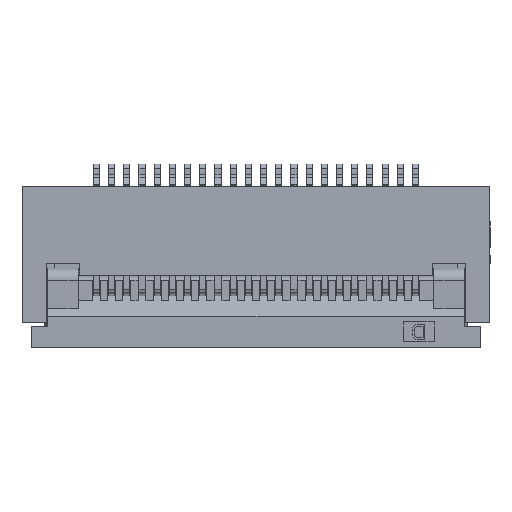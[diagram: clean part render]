
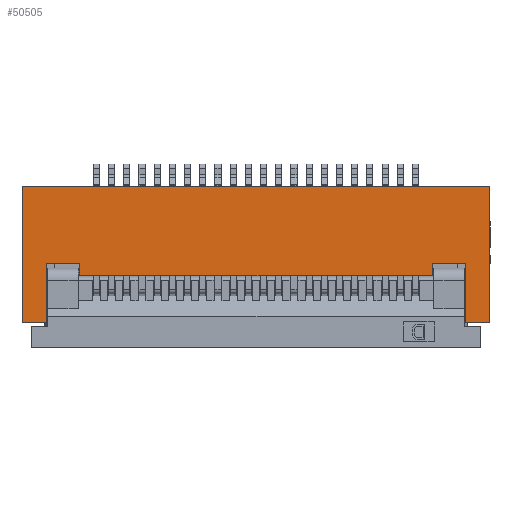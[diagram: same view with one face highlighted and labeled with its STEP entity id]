
A CAD part, top view. The second image highlights one B-rep face of the part: STEP entity #50505.
In plain terms, the highlighted planar face has unit normal (0, 0, 1).
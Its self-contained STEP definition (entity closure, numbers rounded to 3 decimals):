
#1907 = EDGE_CURVE ( 'NONE', #40759, #85933, #59742, .T. ) ;
#2550 = ORIENTED_EDGE ( 'NONE', *, *, #75222, .T. ) ;
#3013 = VERTEX_POINT ( 'NONE', #68509 ) ;
#3036 = DIRECTION ( 'NONE',  ( -1., 0., 0. ) ) ;
#7450 = VERTEX_POINT ( 'NONE', #47236 ) ;
#7675 = CARTESIAN_POINT ( 'NONE',  ( 7.75, 2.681, 2. ) ) ;
#8118 = CARTESIAN_POINT ( 'NONE',  ( -6.9, -0.844, 2. ) ) ;
#8336 = VERTEX_POINT ( 'NONE', #31767 ) ;
#8471 = CARTESIAN_POINT ( 'NONE',  ( 7.3, -1.819, 2. ) ) ;
#8561 = EDGE_CURVE ( 'NONE', #99518, #3013, #19901, .T. ) ;
#8850 = DIRECTION ( 'NONE',  ( -1., 0., 0. ) ) ;
#8954 = LINE ( 'NONE', #68949, #79831 ) ;
#10359 = EDGE_CURVE ( 'NONE', #66050, #8336, #61046, .T. ) ;
#12968 = CARTESIAN_POINT ( 'NONE',  ( -7.7, 2.681, 2. ) ) ;
#15046 = EDGE_CURVE ( 'NONE', #85933, #81026, #57207, .T. ) ;
#15263 = EDGE_CURVE ( 'NONE', #16054, #61221, #70411, .T. ) ;
#15470 = DIRECTION ( 'NONE',  ( 1., 0., 0. ) ) ;
#16054 = VERTEX_POINT ( 'NONE', #29834 ) ;
#17273 = VECTOR ( 'NONE', #29956, 1000. ) ;
#19901 = LINE ( 'NONE', #71532, #93829 ) ;
#21018 = DIRECTION ( 'NONE',  ( 1., 0., 0. ) ) ;
#23286 = VECTOR ( 'NONE', #105702, 1000. ) ;
#23461 = EDGE_CURVE ( 'NONE', #66050, #76341, #44665, .T. ) ;
#25655 = ORIENTED_EDGE ( 'NONE', *, *, #15046, .T. ) ;
#26765 = CARTESIAN_POINT ( 'NONE',  ( -6.9, -1.819, 2. ) ) ;
#27251 = CARTESIAN_POINT ( 'NONE',  ( -7.3, -1.819, 2. ) ) ;
#29373 = CARTESIAN_POINT ( 'NONE',  ( -6.9, 0.131, 2. ) ) ;
#29834 = CARTESIAN_POINT ( 'NONE',  ( 6.9, 0.131, 2. ) ) ;
#29956 = DIRECTION ( 'NONE',  ( 0., -1., 0. ) ) ;
#31767 = CARTESIAN_POINT ( 'NONE',  ( -7.7, -1.819, 2. ) ) ;
#36967 = CARTESIAN_POINT ( 'NONE',  ( -7.7, 0.431, 2. ) ) ;
#37608 = EDGE_CURVE ( 'NONE', #40759, #61221, #42436, .T. ) ;
#40035 = DIRECTION ( 'NONE',  ( -1., 0., 0. ) ) ;
#40639 = ORIENTED_EDGE ( 'NONE', *, *, #108759, .T. ) ;
#40759 = VERTEX_POINT ( 'NONE', #104126 ) ;
#42436 = LINE ( 'NONE', #8471, #86981 ) ;
#42713 = CARTESIAN_POINT ( 'NONE',  ( -6.35, 0.131, 2. ) ) ;
#44665 = LINE ( 'NONE', #8118, #68500 ) ;
#45820 = DIRECTION ( 'NONE',  ( 0., -1., 0. ) ) ;
#45878 = DIRECTION ( 'NONE',  ( 0., 0., 1. ) ) ;
#47236 = CARTESIAN_POINT ( 'NONE',  ( 5.8, 0.131, 2. ) ) ;
#47819 = ORIENTED_EDGE ( 'NONE', *, *, #8561, .T. ) ;
#48310 = EDGE_LOOP ( 'NONE', ( #47819, #40639, #108832, #91409, #95312, #97751, #25655, #2550, #59898, #86434, #78393, #63122 ) ) ;
#48702 = CARTESIAN_POINT ( 'NONE',  ( 7.7, 2.681, 2. ) ) ;
#50505 = ADVANCED_FACE ( 'NONE', ( #54171 ), #96325, .T. ) ;
#54171 = FACE_OUTER_BOUND ( 'NONE', #48310, .T. ) ;
#57207 = LINE ( 'NONE', #7675, #90667 ) ;
#59742 = LINE ( 'NONE', #85759, #82849 ) ;
#59898 = ORIENTED_EDGE ( 'NONE', *, *, #10359, .F. ) ;
#60615 = CARTESIAN_POINT ( 'NONE',  ( -5.8, 0.131, 2. ) ) ;
#61046 = LINE ( 'NONE', #27251, #76960 ) ;
#61221 = VERTEX_POINT ( 'NONE', #104445 ) ;
#63122 = ORIENTED_EDGE ( 'NONE', *, *, #97714, .T. ) ;
#63458 = CARTESIAN_POINT ( 'NONE',  ( -5.8, -0.269, 2. ) ) ;
#64143 = LINE ( 'NONE', #98531, #23286 ) ;
#66050 = VERTEX_POINT ( 'NONE', #26765 ) ;
#66790 = DIRECTION ( 'NONE',  ( 0., 1., 0. ) ) ;
#68500 = VECTOR ( 'NONE', #109729, 1000. ) ;
#68509 = CARTESIAN_POINT ( 'NONE',  ( 5.8, -0.269, 2. ) ) ;
#68949 = CARTESIAN_POINT ( 'NONE',  ( 5.8, -0.069, 2. ) ) ;
#69196 = CARTESIAN_POINT ( 'NONE',  ( 23.818, 2.771, 2. ) ) ;
#70213 = VECTOR ( 'NONE', #15470, 1000. ) ;
#70411 = LINE ( 'NONE', #104234, #17273 ) ;
#71532 = CARTESIAN_POINT ( 'NONE',  ( 7.75, -0.269, 2. ) ) ;
#72817 = DIRECTION ( 'NONE',  ( 0., -1., 0. ) ) ;
#75222 = EDGE_CURVE ( 'NONE', #81026, #8336, #79692, .T. ) ;
#75374 = AXIS2_PLACEMENT_3D ( 'NONE', #69196, #45878, #3036 ) ;
#76256 = DIRECTION ( 'NONE',  ( -1., 0., 0. ) ) ;
#76341 = VERTEX_POINT ( 'NONE', #29373 ) ;
#76703 = VECTOR ( 'NONE', #45820, 1000. ) ;
#76960 = VECTOR ( 'NONE', #8850, 1000. ) ;
#78393 = ORIENTED_EDGE ( 'NONE', *, *, #105153, .T. ) ;
#79692 = LINE ( 'NONE', #36967, #76703 ) ;
#79831 = VECTOR ( 'NONE', #66790, 1000. ) ;
#80240 = EDGE_CURVE ( 'NONE', #7450, #16054, #64143, .T. ) ;
#81026 = VERTEX_POINT ( 'NONE', #12968 ) ;
#82248 = CARTESIAN_POINT ( 'NONE',  ( -5.8, -0.069, 2. ) ) ;
#82849 = VECTOR ( 'NONE', #93548, 1000. ) ;
#85759 = CARTESIAN_POINT ( 'NONE',  ( 7.7, 0.431, 2. ) ) ;
#85933 = VERTEX_POINT ( 'NONE', #48702 ) ;
#86434 = ORIENTED_EDGE ( 'NONE', *, *, #23461, .T. ) ;
#86981 = VECTOR ( 'NONE', #76256, 1000. ) ;
#90546 = LINE ( 'NONE', #82248, #93003 ) ;
#90667 = VECTOR ( 'NONE', #40035, 1000. ) ;
#91409 = ORIENTED_EDGE ( 'NONE', *, *, #15263, .T. ) ;
#92621 = VERTEX_POINT ( 'NONE', #60615 ) ;
#93003 = VECTOR ( 'NONE', #72817, 1000. ) ;
#93548 = DIRECTION ( 'NONE',  ( 0., 1., 0. ) ) ;
#93829 = VECTOR ( 'NONE', #21018, 1000. ) ;
#95312 = ORIENTED_EDGE ( 'NONE', *, *, #37608, .F. ) ;
#96325 = PLANE ( 'NONE',  #75374 ) ;
#97714 = EDGE_CURVE ( 'NONE', #92621, #99518, #90546, .T. ) ;
#97751 = ORIENTED_EDGE ( 'NONE', *, *, #1907, .T. ) ;
#98531 = CARTESIAN_POINT ( 'NONE',  ( 6.35, 0.131, 2. ) ) ;
#99518 = VERTEX_POINT ( 'NONE', #63458 ) ;
#104126 = CARTESIAN_POINT ( 'NONE',  ( 7.7, -1.819, 2. ) ) ;
#104234 = CARTESIAN_POINT ( 'NONE',  ( 6.9, -0.844, 2. ) ) ;
#104445 = CARTESIAN_POINT ( 'NONE',  ( 6.9, -1.819, 2. ) ) ;
#105153 = EDGE_CURVE ( 'NONE', #76341, #92621, #109793, .T. ) ;
#105702 = DIRECTION ( 'NONE',  ( 1., 0., 0. ) ) ;
#108759 = EDGE_CURVE ( 'NONE', #3013, #7450, #8954, .T. ) ;
#108832 = ORIENTED_EDGE ( 'NONE', *, *, #80240, .T. ) ;
#109729 = DIRECTION ( 'NONE',  ( 0., 1., 0. ) ) ;
#109793 = LINE ( 'NONE', #42713, #70213 ) ;
